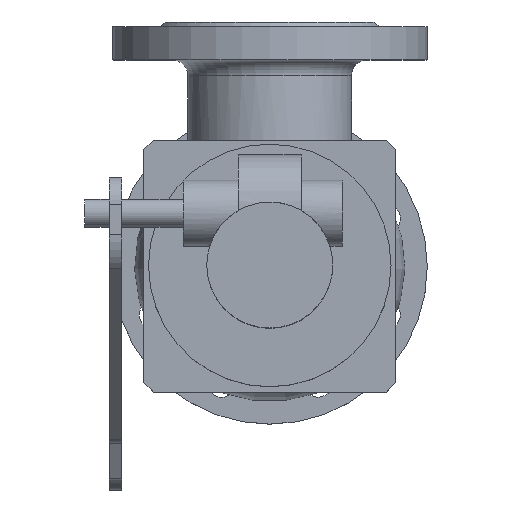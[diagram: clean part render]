
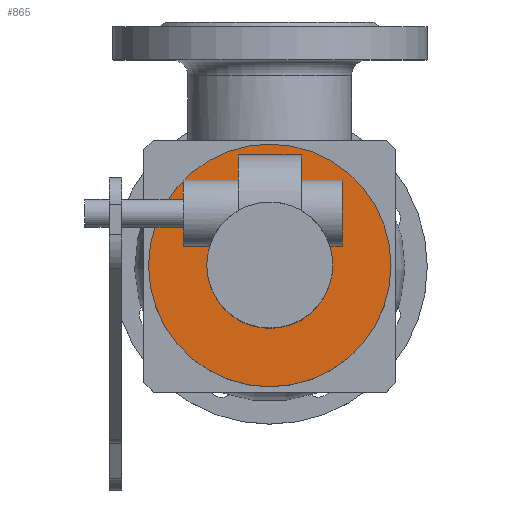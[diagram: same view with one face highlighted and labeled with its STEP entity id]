
A CAD part, top view. The second image highlights one B-rep face of the part: STEP entity #865.
In plain terms, the highlighted planar face has unit normal (0, 0, 1).
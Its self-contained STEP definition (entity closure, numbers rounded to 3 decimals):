
#865=ADVANCED_FACE('',(#1995,#1997),#1999,.T.);
#1995=FACE_BOUND('',#1996,.T.);
#1996=EDGE_LOOP('',(#2753));
#1997=FACE_BOUND('',#1998,.T.);
#1998=EDGE_LOOP('',(#2754));
#1999=PLANE('',#2000);
#2000=AXIS2_PLACEMENT_3D('',#2001,#2002,#2003);
#2001=CARTESIAN_POINT('',(0.,0.,451.));
#2002=DIRECTION('',(0.,0.,1.));
#2003=DIRECTION('',(0.,1.,0.));
#2753=ORIENTED_EDGE('',*,*,#3204,.F.);
#2754=ORIENTED_EDGE('',*,*,#3205,.T.);
#3204=EDGE_CURVE('',#3658,#3658,#3659,.T.);
#3205=EDGE_CURVE('',#3660,#3660,#3661,.T.);
#3658=VERTEX_POINT('',#5596);
#3659=CIRCLE('',#5597,77.);
#3660=VERTEX_POINT('',#5601);
#3661=CIRCLE('',#5602,40.);
#5596=CARTESIAN_POINT('',(0.,77.,451.));
#5597=AXIS2_PLACEMENT_3D('',#5598,#5599,#5600);
#5598=CARTESIAN_POINT('',(0.,0.,451.));
#5599=DIRECTION('',(0.,0.,-1.));
#5600=DIRECTION('',(0.,1.,0.));
#5601=CARTESIAN_POINT('',(0.,40.,451.));
#5602=AXIS2_PLACEMENT_3D('',#5603,#5604,#5605);
#5603=CARTESIAN_POINT('',(0.,0.,451.));
#5604=DIRECTION('',(0.,0.,-1.));
#5605=DIRECTION('',(0.,1.,0.));
